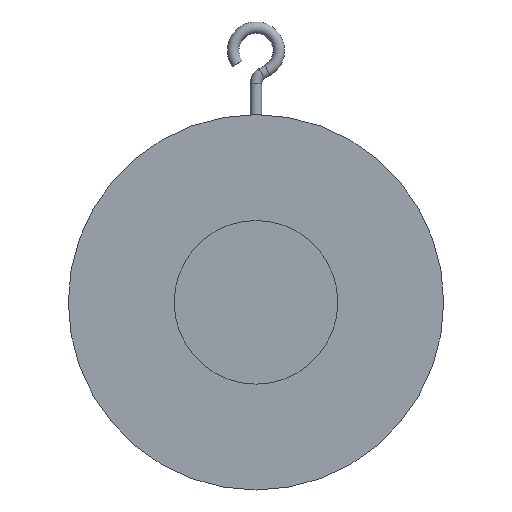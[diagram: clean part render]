
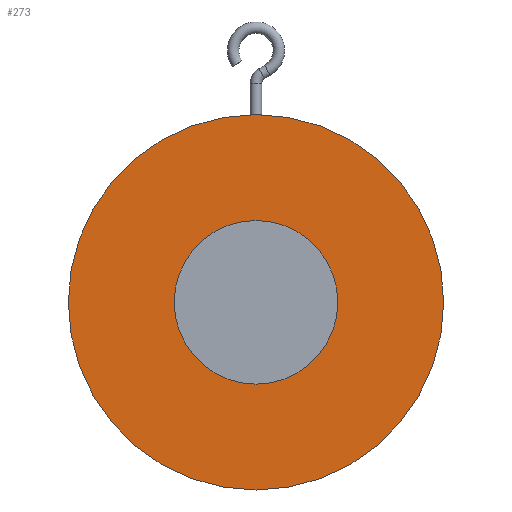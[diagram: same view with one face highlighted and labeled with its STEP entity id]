
A CAD part, front view. The second image highlights one B-rep face of the part: STEP entity #273.
In plain terms, the highlighted planar face has unit normal (0, -1, 0).
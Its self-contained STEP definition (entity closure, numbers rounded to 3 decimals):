
#273=ADVANCED_FACE('',(#525,#527),#529,.T.);
#525=FACE_BOUND('',#526,.T.);
#526=EDGE_LOOP('',(#702));
#527=FACE_BOUND('',#528,.T.);
#528=EDGE_LOOP('',(#703));
#529=PLANE('',#530);
#530=AXIS2_PLACEMENT_3D('',#531,#532,#533);
#531=CARTESIAN_POINT('',(0.,-9.,0.));
#532=DIRECTION('',(0.,-1.,0.));
#533=DIRECTION('',(0.,0.,1.));
#702=ORIENTED_EDGE('',*,*,#772,.F.);
#703=ORIENTED_EDGE('',*,*,#774,.T.);
#772=EDGE_CURVE('',#877,#877,#878,.T.);
#774=EDGE_CURVE('',#881,#881,#882,.T.);
#877=VERTEX_POINT('',#1343);
#878=CIRCLE('',#1344,82.);
#881=VERTEX_POINT('',#1353);
#882=CIRCLE('',#1354,35.75);
#1343=CARTESIAN_POINT('',(0.,-9.,82.));
#1344=AXIS2_PLACEMENT_3D('',#1345,#1346,#1347);
#1345=CARTESIAN_POINT('',(0.,-9.,0.));
#1346=DIRECTION('',(0.,1.,0.));
#1347=DIRECTION('',(0.,0.,1.));
#1353=CARTESIAN_POINT('',(0.,-9.,35.75));
#1354=AXIS2_PLACEMENT_3D('',#1355,#1356,#1357);
#1355=CARTESIAN_POINT('',(0.,-9.,0.));
#1356=DIRECTION('',(0.,1.,0.));
#1357=DIRECTION('',(0.,0.,1.));
